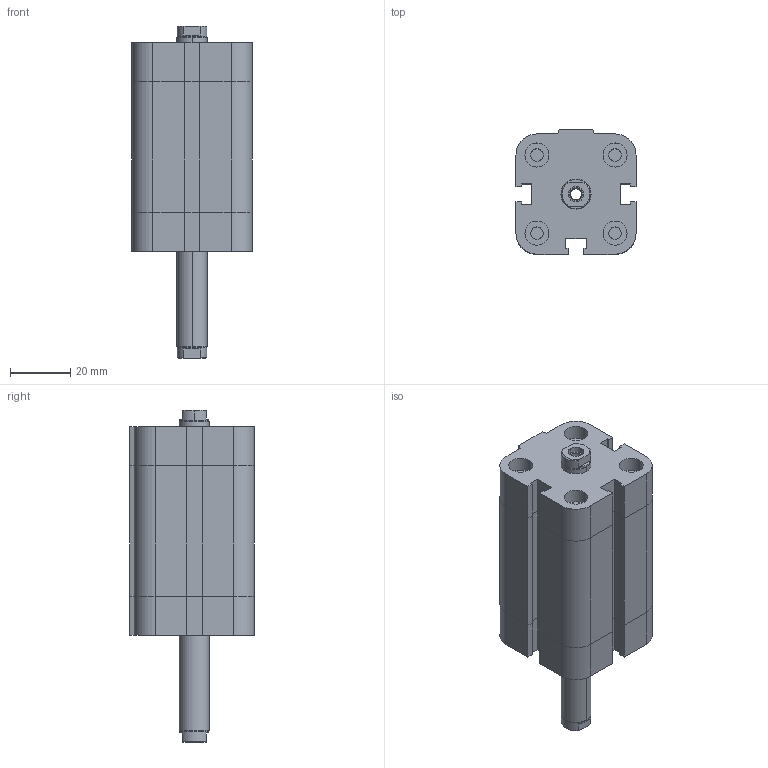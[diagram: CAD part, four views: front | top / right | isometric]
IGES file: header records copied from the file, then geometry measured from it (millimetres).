
Global section: file name: No Iges File Name specified; native system: Autodesk Inventor 2009; preprocessor: AutoDesk Inventor Iges Exporter R2009; author: maffial1; date: 20090420.201158; units: millimetre
Bounding box: 40 x 41.5 x 110.5 mm (x, y, z)
Volume: 100724.6 mm3; surface area: 25926.2 mm2
Topology: 2 solids, 2 shells, 204 faces, 456 edges, 278 vertices
Faces by surface type: plane 114, bspline 44, revolution 20, cylinder 18, cone 8
